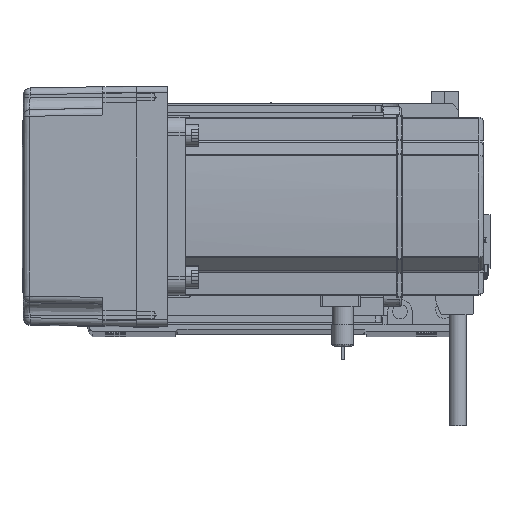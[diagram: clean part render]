
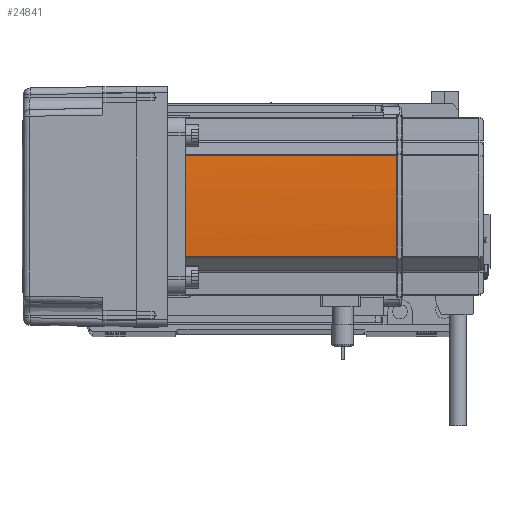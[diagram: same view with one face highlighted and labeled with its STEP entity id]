
A CAD part, top view. The second image highlights one B-rep face of the part: STEP entity #24841.
In plain terms, the highlighted cylindrical face has radius 270 mm (diameter 540 mm), a partial arc.
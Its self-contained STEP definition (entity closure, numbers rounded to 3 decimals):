
#288 = VERTEX_POINT ( 'NONE', #348 ) ;
#348 = CARTESIAN_POINT ( 'NONE',  ( 40., 0.127, 134. ) ) ;
#1729 = CARTESIAN_POINT ( 'NONE',  ( 40., -0.127, 134. ) ) ;
#2063 = DIRECTION ( 'NONE',  ( -1., 0., 0. ) ) ;
#2135 = CARTESIAN_POINT ( 'NONE',  ( 40., 0.127, 134. ) ) ;
#2272 = CYLINDRICAL_SURFACE ( 'NONE', #53273, 270. ) ;
#2647 = EDGE_CURVE ( 'NONE', #41132, #4029, #8253, .T. ) ;
#2865 = ORIENTED_EDGE ( 'NONE', *, *, #22679, .F. ) ;
#4029 = VERTEX_POINT ( 'NONE', #34940 ) ;
#4304 = CARTESIAN_POINT ( 'NONE',  ( -230., 0., 58. ) ) ;
#4726 = AXIS2_PLACEMENT_3D ( 'NONE', #13226, #8039, #53689 ) ;
#4820 = ORIENTED_EDGE ( 'NONE', *, *, #2647, .T. ) ;
#5127 = CARTESIAN_POINT ( 'NONE',  ( 40., -0.127, 134. ) ) ;
#6446 = AXIS2_PLACEMENT_3D ( 'NONE', #20301, #55610, #2063 ) ;
#8039 = DIRECTION ( 'NONE',  ( 0., 0., -1. ) ) ;
#8220 = VERTEX_POINT ( 'NONE', #24208 ) ;
#8253 = LINE ( 'NONE', #52800, #56542 ) ;
#8648 = EDGE_CURVE ( 'NONE', #8220, #44539, #16247, .T. ) ;
#8848 = EDGE_LOOP ( 'NONE', ( #4820, #2865, #54436, #48926, #47412, #9580 ) ) ;
#9580 = ORIENTED_EDGE ( 'NONE', *, *, #9842, .T. ) ;
#9842 = EDGE_CURVE ( 'NONE', #13427, #41132, #46990, .T. ) ;
#11202 = CIRCLE ( 'NONE', #4726, 270. ) ;
#11523 = CIRCLE ( 'NONE', #6446, 270. ) ;
#13226 = CARTESIAN_POINT ( 'NONE',  ( -230., 0., 134. ) ) ;
#13427 = VERTEX_POINT ( 'NONE', #5127 ) ;
#14135 = DIRECTION ( 'NONE',  ( -1., 0., 0. ) ) ;
#15751 = DIRECTION ( 'NONE',  ( 0., 0., -1. ) ) ;
#16122 = DIRECTION ( 'NONE',  ( 0., 0., -1. ) ) ;
#16247 = LINE ( 'NONE', #36315, #52434 ) ;
#17554 = EDGE_CURVE ( 'NONE', #44539, #288, #11202, .T. ) ;
#18953 = B_SPLINE_CURVE_WITH_KNOTS ( 'NONE', 3,
 ( #1729, #33132, #56482, #2135 ),
 .UNSPECIFIED., .F., .F.,
 ( 4, 4 ),
 ( 0., 1. ),
 .UNSPECIFIED. ) ;
#20301 = CARTESIAN_POINT ( 'NONE',  ( -230., 0., 39. ) ) ;
#22679 = EDGE_CURVE ( 'NONE', #8220, #4029, #11523, .T. ) ;
#23914 = DIRECTION ( 'NONE',  ( -1., 0., 0. ) ) ;
#24208 = CARTESIAN_POINT ( 'NONE',  ( 39.042, 22.724, 39. ) ) ;
#24841 = ADVANCED_FACE ( 'NONE', ( #27824 ), #2272, .T. ) ;
#27324 = DIRECTION ( 'NONE',  ( 0., 0., 1. ) ) ;
#27824 = FACE_OUTER_BOUND ( 'NONE', #8848, .T. ) ;
#33132 = CARTESIAN_POINT ( 'NONE',  ( 40., -0.042, 134. ) ) ;
#34030 = AXIS2_PLACEMENT_3D ( 'NONE', #50693, #46370, #23914 ) ;
#34940 = CARTESIAN_POINT ( 'NONE',  ( 39.042, -22.724, 39. ) ) ;
#36315 = CARTESIAN_POINT ( 'NONE',  ( 39.042, 22.724, 58. ) ) ;
#37536 = CARTESIAN_POINT ( 'NONE',  ( 39.042, -22.724, 134. ) ) ;
#37708 = EDGE_CURVE ( 'NONE', #13427, #288, #18953, .T. ) ;
#41132 = VERTEX_POINT ( 'NONE', #37536 ) ;
#44539 = VERTEX_POINT ( 'NONE', #50842 ) ;
#46370 = DIRECTION ( 'NONE',  ( 0., 0., -1. ) ) ;
#46990 = CIRCLE ( 'NONE', #34030, 270. ) ;
#47412 = ORIENTED_EDGE ( 'NONE', *, *, #37708, .F. ) ;
#48926 = ORIENTED_EDGE ( 'NONE', *, *, #17554, .T. ) ;
#50693 = CARTESIAN_POINT ( 'NONE',  ( -230., 0., 134. ) ) ;
#50842 = CARTESIAN_POINT ( 'NONE',  ( 39.042, 22.724, 134. ) ) ;
#52434 = VECTOR ( 'NONE', #27324, 1000. ) ;
#52800 = CARTESIAN_POINT ( 'NONE',  ( 39.042, -22.724, 58. ) ) ;
#53273 = AXIS2_PLACEMENT_3D ( 'NONE', #4304, #15751, #14135 ) ;
#53689 = DIRECTION ( 'NONE',  ( -1., 0., 0. ) ) ;
#54436 = ORIENTED_EDGE ( 'NONE', *, *, #8648, .T. ) ;
#55610 = DIRECTION ( 'NONE',  ( 0., 0., -1. ) ) ;
#56482 = CARTESIAN_POINT ( 'NONE',  ( 40., 0.042, 134. ) ) ;
#56542 = VECTOR ( 'NONE', #16122, 1000. ) ;
